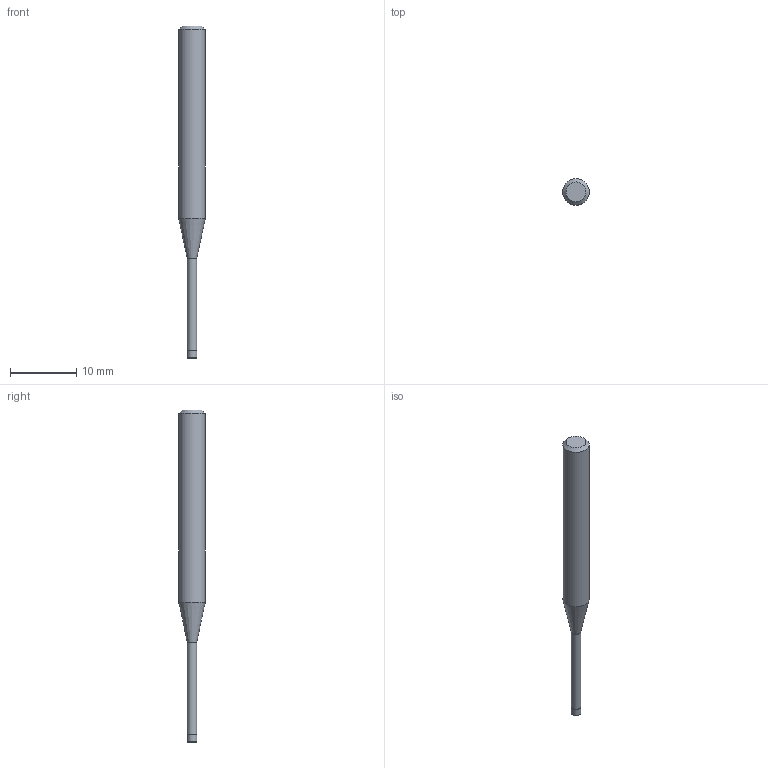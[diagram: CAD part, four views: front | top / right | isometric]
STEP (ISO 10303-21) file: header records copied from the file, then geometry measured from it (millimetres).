
FILE_DESCRIPTION((''),'2;1');
FILE_NAME('C:\Users\nsx150\AppData\Local\Temp\Mastercam 2021\3SYKECWX22\TEMP.step','2021-04-22T09:47:54',(''),(''),'STEP Write','Mastercam 2021 ... CNC Software, Inc.','');
FILE_SCHEMA(('AUTOMOTIVE_DESIGN'));
Length unit declared in the file: millimetre
Products named in the file (1): None
Bounding box: 4 x 4 x 50 mm (x, y, z)
Volume: 424.3 mm3; surface area: 497.9 mm2
Topology: 2 solids, 2 shells, 10 faces, 14 edges, 8 vertices
Faces by surface type: plane 4, cylinder 3, cone 2, torus 1
Full cylindrical faces by diameter (mm): 1.43 x1, 1.5 x1, 4 x1
Entity records: 232 total; most frequent: DIRECTION 40, CARTESIAN_POINT 28, AXIS2_PLACEMENT_3D 20, ORIENTED_EDGE 16, EDGE_LOOP 16, STYLED_ITEM 13, ADVANCED_FACE 10, FACE_BOUND 10
